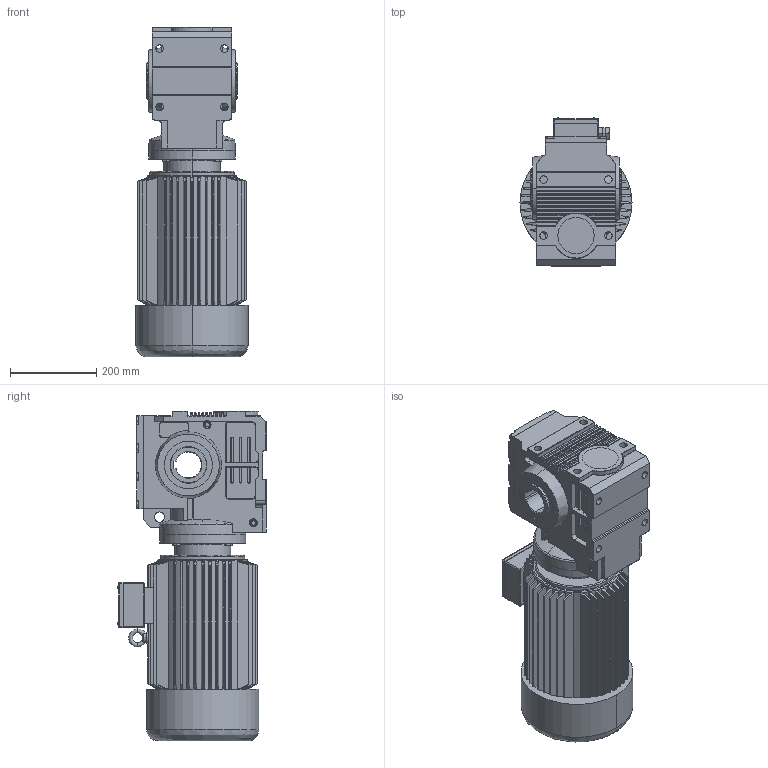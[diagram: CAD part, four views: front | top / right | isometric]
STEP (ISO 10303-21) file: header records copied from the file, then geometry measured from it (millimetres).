
FILE_DESCRIPTION (( 'STEP AP214' ), '1' );
FILE_NAME ('MSW77.step', '2020-06-27T03:49:08', ( '' ), ( '' ), 'SwSTEP 2.0', 'SolidWorks 2016', '' );
FILE_SCHEMA (( 'AUTOMOTIVE_DESIGN' ));
Length unit declared in the file: millimetre
Products named in the file (1): MSW77
Bounding box: 260 x 343.5 x 765 mm (x, y, z)
Volume: 32255586 mm3; surface area: 1505597.6 mm2
Topology: 3 solids, 3 shells, 1680 faces, 4128 edges, 2469 vertices
Faces by surface type: plane 625, cylinder 511, bspline 335, cone 209
Entity records: 75307 total; most frequent: CARTESIAN_POINT 20141, ORIENTED_EDGE 8162, DIRECTION 6951, EDGE_CURVE 4081, AXIS2_PLACEMENT_3D 2501, VERTEX_POINT 2469, VECTOR 1949, LINE 1949
